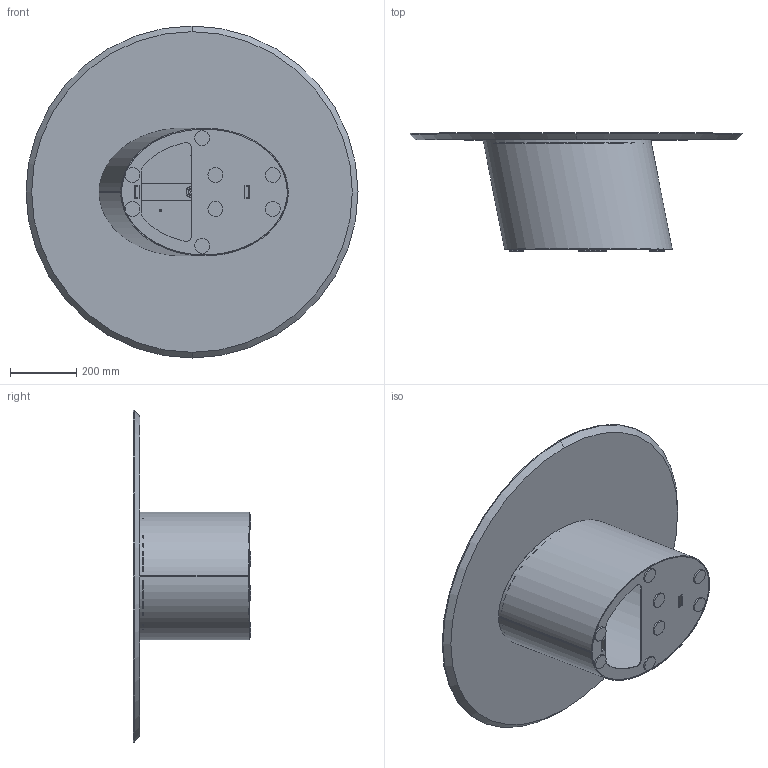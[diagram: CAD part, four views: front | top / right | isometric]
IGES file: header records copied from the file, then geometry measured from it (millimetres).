
Start section: SolidWorks IGES file using analytic representation for surfaces
Global section: file name: Y:\eforma\TECNICO\SOLIDWORKS\E-FORMA\2-TAVOLINI\DORADO LOW\02 parts\D103W.IGS; native system: SolidWorks 2022; preprocessor: SolidWorks 2022; author: eforma.tech; date: 240807.132026; units: millimetre
Bounding box: 1000 x 355 x 1000 mm (x, y, z)
Volume: 17193032.2 mm3; surface area: 3060765.1 mm2
Topology: 16 solids, 16 shells, 185 faces, 447 edges, 290 vertices
Faces by surface type: revolution 89, plane 82, bspline 14
